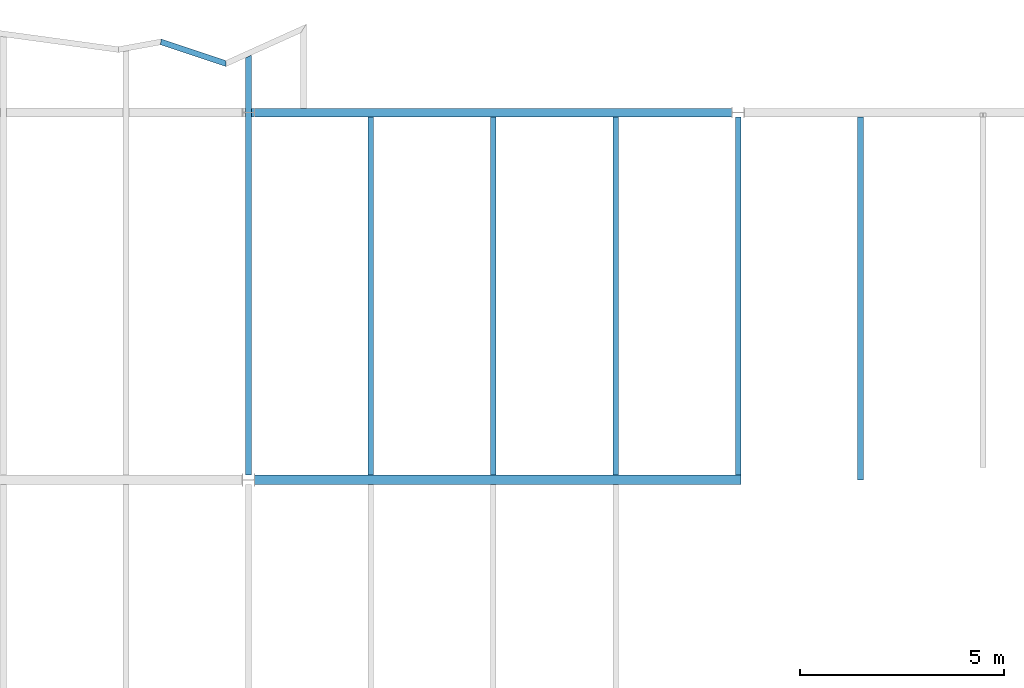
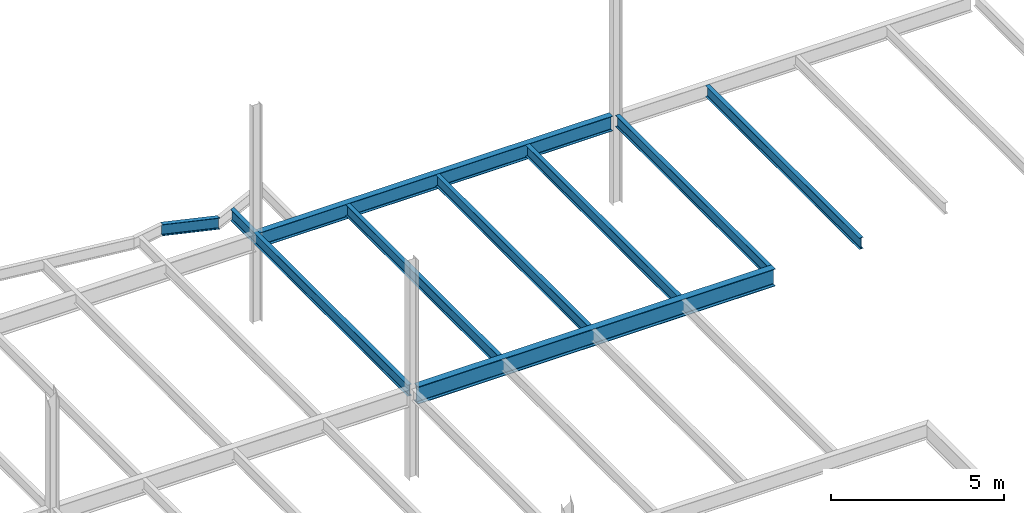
# One storey, part 11 of 23: 9 beams.
"""IFC2X3 building model written with IfcOpenShell, lengths in millimetres."""

from ifc_helpers import new_model, si_unit, origin, place, context, project, spatial, faceted_brep, material, element, save


model = new_model("IFC2X3")

# Units and contexts
context_of_model = context(None, 3, precision=1e-05, world=origin())
ifc_project = project(units=[si_unit("LENGTHUNIT", "METRE", prefix="MILLI")], contexts=[context_of_model])

# Building, storey
building = spatial("IfcBuilding", under=ifc_project, Name="Building", CompositionType="ELEMENT")
storey = spatial("IfcBuildingStorey", under=building, Name="FL5-FRM", CompositionType="ELEMENT")

# Beams
ifc_material_1 = material(Name="A992")
beam_1_placement = place(None, origin())
element("IfcBeam", 1, at=beam_1_placement, inside=storey, material=ifc_material_1, Name="Column407", context=context_of_model, shape_type="Brep", body=[
    faceted_brep([(-11930.0, 35895.5, 17345.0), (-11930.0, 36104.5, 17345.0), (-153.0, 36104.5, 17345.0), (-153.0, 35895.5, 17345.0), (-11930.0, 36104.5, 17358.3), (-153.0, 36104.5, 17358.3), (-11930.0, 36017.4, 17358.3), (-153.0, 36017.4, 17358.3), (-11930.0, 36014.2, 17358.7), (-153.0, 36014.2, 17358.7), (-11930.0, 36011.1, 17360.0), (-153.0, 36011.1, 17360.0), (-11930.0, 36008.5, 17362.0), (-153.0, 36008.5, 17362.0), (-11930.0, 36006.5, 17364.7), (-153.0, 36006.5, 17364.7), (-11930.0, 36005.2, 17367.7), (-153.0, 36005.2, 17367.7), (-11930.0, 36004.8, 17371.0), (-153.0, 36004.8, 17371.0), (-11930.0, 36004.8, 17847.0), (-153.0, 36004.8, 17847.0), (-11930.0, 36005.2, 17850.3), (-153.0, 36005.2, 17850.3), (-11930.0, 36006.5, 17853.3), (-153.0, 36006.5, 17853.3), (-11930.0, 36008.5, 17856.0), (-153.0, 36008.5, 17856.0), (-11930.0, 36011.1, 17858.0), (-153.0, 36011.1, 17858.0), (-11930.0, 36014.2, 17859.3), (-153.0, 36014.2, 17859.3), (-11930.0, 36017.4, 17859.7), (-153.0, 36017.4, 17859.7), (-11930.0, 36104.5, 17859.7), (-153.0, 36104.5, 17859.7), (-11930.0, 36104.5, 17873.0), (-153.0, 36104.5, 17873.0), (-11930.0, 35895.5, 17873.0), (-153.0, 35895.5, 17873.0), (-11930.0, 35895.5, 17859.7), (-153.0, 35895.5, 17859.7), (-11930.0, 35982.6, 17859.7), (-153.0, 35982.6, 17859.7), (-11930.0, 35985.8, 17859.3), (-153.0, 35985.8, 17859.3), (-11930.0, 35988.9, 17858.0), (-153.0, 35988.9, 17858.0), (-11930.0, 35991.5, 17856.0), (-153.0, 35991.5, 17856.0), (-11930.0, 35993.5, 17853.3), (-153.0, 35993.5, 17853.3), (-11930.0, 35994.8, 17850.3), (-153.0, 35994.8, 17850.3), (-11930.0, 35995.3, 17847.0), (-153.0, 35995.3, 17847.0), (-11930.0, 35995.3, 17371.0), (-153.0, 35995.3, 17371.0), (-11930.0, 35994.8, 17367.7), (-153.0, 35994.8, 17367.7), (-11930.0, 35993.5, 17364.7), (-153.0, 35993.5, 17364.7), (-11930.0, 35991.5, 17362.0), (-153.0, 35991.5, 17362.0), (-11930.0, 35988.9, 17360.0), (-153.0, 35988.9, 17360.0), (-11930.0, 35985.8, 17358.7), (-153.0, 35985.8, 17358.7), (-11930.0, 35982.6, 17358.3), (-153.0, 35982.6, 17358.3), (-11930.0, 35895.5, 17358.3), (-153.0, 35895.5, 17358.3)], [[[0, 1, 2, 3]], [[1, 4, 5, 2]], [[4, 6, 7, 5]], [[6, 8, 9, 7]], [[8, 10, 11, 9]], [[10, 12, 13, 11]], [[12, 14, 15, 13]], [[14, 16, 17, 15]], [[16, 18, 19, 17]], [[18, 20, 21, 19]], [[20, 22, 23, 21]], [[22, 24, 25, 23]], [[24, 26, 27, 25]], [[26, 28, 29, 27]], [[28, 30, 31, 29]], [[30, 32, 33, 31]], [[32, 34, 35, 33]], [[34, 36, 37, 35]], [[36, 38, 39, 37]], [[38, 40, 41, 39]], [[40, 42, 43, 41]], [[42, 44, 45, 43]], [[44, 46, 47, 45]], [[46, 48, 49, 47]], [[48, 50, 51, 49]], [[50, 52, 53, 51]], [[52, 54, 55, 53]], [[54, 56, 57, 55]], [[56, 58, 59, 57]], [[58, 60, 61, 59]], [[60, 62, 63, 61]], [[62, 64, 65, 63]], [[64, 66, 67, 65]], [[66, 68, 69, 67]], [[68, 70, 71, 69]], [[70, 0, 3, 71]], [[0, 70, 68, 66, 64, 62, 60, 58, 56, 54, 52, 50, 48, 46, 44, 42, 40, 38, 36, 34, 32, 30, 28, 26, 24, 22, 20, 18, 16, 14, 12, 10, 8, 6, 4, 1]], [[3, 2, 5, 7, 9, 11, 13, 15, 17, 19, 21, 23, 25, 27, 29, 31, 33, 35, 37, 39, 41, 43, 45, 47, 49, 51, 53, 55, 57, 59, 61, 63, 65, 67, 69, 71]]]),
])
ifc_material_2 = material(Name="A992")
beam_2_placement = place(None, origin())
element("IfcBeam", 2, at=beam_2_placement, inside=storey, material=ifc_material_2, Name="B264", context=context_of_model, shape_type="Brep", body=[
    faceted_brep([(-12070.0, 37340.2, 17474.0), (-11930.0, 37403.5, 17474.0), (-11930.0, 27114.5, 17474.0), (-12070.0, 27114.5, 17474.0), (-11930.0, 37403.5, 17482.8), (-11930.0, 27114.5, 17482.8), (-11986.6, 37377.9, 17482.8), (-11986.6, 27114.5, 17482.8), (-11988.0, 37377.2, 17482.9), (-11988.1, 27114.5, 17482.9), (-11989.5, 37376.6, 17483.2), (-11989.5, 27114.5, 17483.2), (-11990.8, 37376.0, 17483.7), (-11990.8, 27114.5, 17483.7), (-11992.1, 37375.4, 17484.4), (-11992.1, 27114.5, 17484.4), (-11993.3, 37374.9, 17485.3), (-11993.3, 27114.5, 17485.3), (-11994.3, 37374.4, 17486.3), (-11994.3, 27114.5, 17486.3), (-11995.2, 37374.0, 17487.5), (-11995.2, 27114.5, 17487.5), (-11995.9, 37373.7, 17488.8), (-11995.9, 27114.5, 17488.8), (-11996.4, 37373.5, 17490.1), (-11996.4, 27114.5, 17490.1), (-11996.7, 37373.3, 17491.5), (-11996.7, 27114.5, 17491.5), (-11996.8, 37373.3, 17493.0), (-11996.8, 27114.5, 17493.0), (-11996.8, 37373.3, 17854.0), (-11996.8, 27114.5, 17854.0), (-11996.7, 37373.3, 17855.5), (-11996.7, 27114.5, 17855.5), (-11996.4, 37373.5, 17856.9), (-11996.4, 27114.5, 17856.9), (-11995.9, 37373.7, 17858.2), (-11995.9, 27114.5, 17858.2), (-11995.2, 37374.0, 17859.5), (-11995.2, 27114.5, 17859.5), (-11994.3, 37374.4, 17860.7), (-11994.3, 27114.5, 17860.7), (-11993.3, 37374.9, 17861.7), (-11993.3, 27114.5, 17861.7), (-11992.1, 37375.4, 17862.6), (-11992.1, 27114.5, 17862.6), (-11990.8, 37376.0, 17863.3), (-11990.8, 27114.5, 17863.3), (-11989.5, 37376.6, 17863.8), (-11989.5, 27114.5, 17863.8), (-11988.0, 37377.2, 17864.1), (-11988.1, 27114.5, 17864.1), (-11986.6, 37377.9, 17864.2), (-11986.6, 27114.5, 17864.2), (-11930.0, 37403.5, 17864.2), (-11930.0, 27114.5, 17864.2), (-11930.0, 37403.5, 17873.0), (-11930.0, 27114.5, 17873.0), (-12070.0, 37340.2, 17873.0), (-12070.0, 27114.5, 17873.0), (-12070.0, 37340.2, 17864.2), (-12070.0, 27114.5, 17864.2), (-12013.4, 37365.8, 17864.2), (-12013.4, 27114.5, 17864.2), (-12012.0, 37366.4, 17864.1), (-12011.9, 27114.5, 17864.1), (-12010.5, 37367.1, 17863.8), (-12010.5, 27114.5, 17863.8), (-12009.2, 37367.7, 17863.3), (-12009.2, 27114.5, 17863.3), (-12007.9, 37368.3, 17862.6), (-12007.9, 27114.5, 17862.6), (-12006.7, 37368.8, 17861.7), (-12006.7, 27114.5, 17861.7), (-12005.7, 37369.3, 17860.7), (-12005.7, 27114.5, 17860.7), (-12004.8, 37369.7, 17859.5), (-12004.8, 27114.5, 17859.5), (-12004.1, 37370.0, 17858.2), (-12004.1, 27114.5, 17858.2), (-12003.6, 37370.2, 17856.9), (-12003.6, 27114.5, 17856.9), (-12003.3, 37370.3, 17855.5), (-12003.3, 27114.5, 17855.5), (-12003.2, 37370.4, 17854.0), (-12003.2, 27114.5, 17854.0), (-12003.2, 37370.4, 17493.0), (-12003.2, 27114.5, 17493.0), (-12003.3, 37370.3, 17491.5), (-12003.3, 27114.5, 17491.5), (-12003.6, 37370.2, 17490.1), (-12003.6, 27114.5, 17490.1), (-12004.1, 37370.0, 17488.8), (-12004.1, 27114.5, 17488.8), (-12004.8, 37369.7, 17487.5), (-12004.8, 27114.5, 17487.5), (-12005.7, 37369.3, 17486.3), (-12005.7, 27114.5, 17486.3), (-12006.7, 37368.8, 17485.3), (-12006.7, 27114.5, 17485.3), (-12007.9, 37368.3, 17484.4), (-12007.9, 27114.5, 17484.4), (-12009.2, 37367.7, 17483.7), (-12009.2, 27114.5, 17483.7), (-12010.5, 37367.1, 17483.2), (-12010.5, 27114.5, 17483.2), (-12012.0, 37366.4, 17482.9), (-12011.9, 27114.5, 17482.9), (-12013.4, 37365.8, 17482.8), (-12013.4, 27114.5, 17482.8), (-12070.0, 37340.2, 17482.8), (-12070.0, 27114.5, 17482.8)], [[[0, 1, 2, 3]], [[1, 4, 5, 2]], [[4, 6, 7, 5]], [[6, 8, 9, 7]], [[8, 10, 11, 9]], [[10, 12, 13, 11]], [[12, 14, 15, 13]], [[14, 16, 17, 15]], [[16, 18, 19, 17]], [[18, 20, 21, 19]], [[20, 22, 23, 21]], [[22, 24, 25, 23]], [[24, 26, 27, 25]], [[26, 28, 29, 27]], [[28, 30, 31, 29]], [[30, 32, 33, 31]], [[32, 34, 35, 33]], [[34, 36, 37, 35]], [[36, 38, 39, 37]], [[38, 40, 41, 39]], [[40, 42, 43, 41]], [[42, 44, 45, 43]], [[44, 46, 47, 45]], [[46, 48, 49, 47]], [[48, 50, 51, 49]], [[50, 52, 53, 51]], [[52, 54, 55, 53]], [[54, 56, 57, 55]], [[56, 58, 59, 57]], [[58, 60, 61, 59]], [[60, 62, 63, 61]], [[62, 64, 65, 63]], [[64, 66, 67, 65]], [[66, 68, 69, 67]], [[68, 70, 71, 69]], [[70, 72, 73, 71]], [[72, 74, 75, 73]], [[74, 76, 77, 75]], [[76, 78, 79, 77]], [[78, 80, 81, 79]], [[80, 82, 83, 81]], [[82, 84, 85, 83]], [[84, 86, 87, 85]], [[86, 88, 89, 87]], [[88, 90, 91, 89]], [[90, 92, 93, 91]], [[92, 94, 95, 93]], [[94, 96, 97, 95]], [[96, 98, 99, 97]], [[98, 100, 101, 99]], [[100, 102, 103, 101]], [[102, 104, 105, 103]], [[104, 106, 107, 105]], [[106, 108, 109, 107]], [[108, 110, 111, 109]], [[110, 0, 3, 111]], [[0, 110, 108, 106, 104, 102, 100, 98, 96, 94, 92, 90, 88, 86, 84, 82, 80, 78, 76, 74, 72, 70, 68, 66, 64, 62, 60, 58, 56, 54, 52, 50, 48, 46, 44, 42, 40, 38, 36, 34, 32, 30, 28, 26, 24, 22, 20, 18, 16, 14, 12, 10, 8, 6, 4, 1]], [[3, 2, 5, 7, 9, 11, 13, 15, 17, 19, 21, 23, 25, 27, 29, 31, 33, 35, 37, 39, 41, 43, 45, 47, 49, 51, 53, 55, 57, 59, 61, 63, 65, 67, 69, 71, 73, 75, 77, 79, 81, 83, 85, 87, 89, 91, 93, 95, 97, 99, 101, 103, 105, 107, 109, 111]]]),
])
ifc_material_3 = material(Name="A992")
beam_3_placement = place(None, origin())
element("IfcBeam", 3, at=beam_3_placement, inside=storey, material=ifc_material_3, Name="Column408", context=context_of_model, shape_type="Brep", body=[
    faceted_brep([(-11846.0, 26885.5, 17261.0), (-11846.0, 27114.5, 17261.0), (70.0, 27114.5, 17261.0), (70.0, 26885.5, 17261.0), (-11846.0, 27114.5, 17280.6), (70.0, 27114.5, 17280.6), (-11846.0, 27018.6, 17280.6), (70.0, 27018.6, 17280.6), (-11846.0, 27015.4, 17281.0), (70.0, 27015.4, 17281.0), (-11846.0, 27012.3, 17282.3), (70.0, 27012.3, 17282.3), (-11846.0, 27009.7, 17284.3), (70.0, 27009.7, 17284.3), (-11846.0, 27007.7, 17287.0), (70.0, 27007.7, 17287.0), (-11846.0, 27006.4, 17290.0), (70.0, 27006.4, 17290.0), (-11846.0, 27005.9, 17293.3), (70.0, 27005.9, 17293.3), (-11846.0, 27005.9, 17840.7), (70.0, 27005.9, 17840.7), (-11846.0, 27006.4, 17844.0), (70.0, 27006.4, 17844.0), (-11846.0, 27007.7, 17847.0), (70.0, 27007.7, 17847.0), (-11846.0, 27009.7, 17849.7), (70.0, 27009.7, 17849.7), (-11846.0, 27012.3, 17851.7), (70.0, 27012.3, 17851.7), (-11846.0, 27015.4, 17853.0), (70.0, 27015.4, 17853.0), (-11846.0, 27018.6, 17853.4), (70.0, 27018.6, 17853.4), (-11846.0, 27114.5, 17853.4), (70.0, 27114.5, 17853.4), (-11846.0, 27114.5, 17873.0), (70.0, 27114.5, 17873.0), (-11846.0, 26885.5, 17873.0), (70.0, 26885.5, 17873.0), (-11846.0, 26885.5, 17853.4), (70.0, 26885.5, 17853.4), (-11846.0, 26981.4, 17853.4), (70.0, 26981.4, 17853.4), (-11846.0, 26984.6, 17853.0), (70.0, 26984.6, 17853.0), (-11846.0, 26987.7, 17851.7), (70.0, 26987.7, 17851.7), (-11846.0, 26990.3, 17849.7), (70.0, 26990.3, 17849.7), (-11846.0, 26992.3, 17847.0), (70.0, 26992.3, 17847.0), (-11846.0, 26993.6, 17844.0), (70.0, 26993.6, 17844.0), (-11846.0, 26994.1, 17840.7), (70.0, 26994.1, 17840.7), (-11846.0, 26994.1, 17293.3), (70.0, 26994.1, 17293.3), (-11846.0, 26993.6, 17290.0), (70.0, 26993.6, 17290.0), (-11846.0, 26992.3, 17287.0), (70.0, 26992.3, 17287.0), (-11846.0, 26990.3, 17284.3), (70.0, 26990.3, 17284.3), (-11846.0, 26987.7, 17282.3), (70.0, 26987.7, 17282.3), (-11846.0, 26984.6, 17281.0), (70.0, 26984.6, 17281.0), (-11846.0, 26981.4, 17280.6), (70.0, 26981.4, 17280.6), (-11846.0, 26885.5, 17280.6), (70.0, 26885.5, 17280.6)], [[[0, 1, 2, 3]], [[1, 4, 5, 2]], [[4, 6, 7, 5]], [[6, 8, 9, 7]], [[8, 10, 11, 9]], [[10, 12, 13, 11]], [[12, 14, 15, 13]], [[14, 16, 17, 15]], [[16, 18, 19, 17]], [[18, 20, 21, 19]], [[20, 22, 23, 21]], [[22, 24, 25, 23]], [[24, 26, 27, 25]], [[26, 28, 29, 27]], [[28, 30, 31, 29]], [[30, 32, 33, 31]], [[32, 34, 35, 33]], [[34, 36, 37, 35]], [[36, 38, 39, 37]], [[38, 40, 41, 39]], [[40, 42, 43, 41]], [[42, 44, 45, 43]], [[44, 46, 47, 45]], [[46, 48, 49, 47]], [[48, 50, 51, 49]], [[50, 52, 53, 51]], [[52, 54, 55, 53]], [[54, 56, 57, 55]], [[56, 58, 59, 57]], [[58, 60, 61, 59]], [[60, 62, 63, 61]], [[62, 64, 65, 63]], [[64, 66, 67, 65]], [[66, 68, 69, 67]], [[68, 70, 71, 69]], [[70, 0, 3, 71]], [[0, 70, 68, 66, 64, 62, 60, 58, 56, 54, 52, 50, 48, 46, 44, 42, 40, 38, 36, 34, 32, 30, 28, 26, 24, 22, 20, 18, 16, 14, 12, 10, 8, 6, 4, 1]], [[3, 2, 5, 7, 9, 11, 13, 15, 17, 19, 21, 23, 25, 27, 29, 31, 33, 35, 37, 39, 41, 43, 45, 47, 49, 51, 53, 55, 57, 59, 61, 63, 65, 67, 69, 71]]]),
])
ifc_material_4 = material(Name="A992")
beam_4_placement = place(None, origin())
element("IfcBeam", 4, at=beam_4_placement, inside=storey, material=ifc_material_4, Name="B265", context=context_of_model, shape_type="Brep", body=[
    faceted_brep([(-9070.0, 35895.5, 17474.0), (-8930.0, 35895.5, 17474.0), (-8930.0, 27114.5, 17474.0), (-9070.0, 27114.5, 17474.0), (-8930.0, 35895.5, 17482.8), (-8930.0, 27114.5, 17482.8), (-8986.6, 35895.5, 17482.8), (-8986.6, 27114.5, 17482.8), (-8989.24, 35895.5, 17483.1), (-8989.24, 27114.5, 17483.1), (-8991.7, 35895.5, 17484.2), (-8991.7, 27114.5, 17484.2), (-8993.81, 35895.5, 17485.8), (-8993.81, 27114.5, 17485.8), (-8995.43, 35895.5, 17487.9), (-8995.43, 27114.5, 17487.9), (-8996.45, 35895.5, 17490.4), (-8996.45, 27114.5, 17490.4), (-8996.8, 35895.5, 17493.0), (-8996.8, 27114.5, 17493.0), (-8996.8, 35895.5, 17854.0), (-8996.8, 27114.5, 17854.0), (-8996.45, 35895.5, 17856.6), (-8996.45, 27114.5, 17856.6), (-8995.43, 35895.5, 17859.1), (-8995.43, 27114.5, 17859.1), (-8993.81, 35895.5, 17861.2), (-8993.81, 27114.5, 17861.2), (-8991.7, 35895.5, 17862.8), (-8991.7, 27114.5, 17862.8), (-8989.24, 35895.5, 17863.9), (-8989.24, 27114.5, 17863.9), (-8986.6, 35895.5, 17864.2), (-8986.6, 27114.5, 17864.2), (-8930.0, 35895.5, 17864.2), (-8930.0, 27114.5, 17864.2), (-8930.0, 35895.5, 17873.0), (-8930.0, 27114.5, 17873.0), (-9070.0, 35895.5, 17873.0), (-9070.0, 27114.5, 17873.0), (-9070.0, 35895.5, 17864.2), (-9070.0, 27114.5, 17864.2), (-9013.4, 35895.5, 17864.2), (-9013.4, 27114.5, 17864.2), (-9010.76, 35895.5, 17863.9), (-9010.76, 27114.5, 17863.9), (-9008.3, 35895.5, 17862.8), (-9008.3, 27114.5, 17862.8), (-9006.19, 35895.5, 17861.2), (-9006.19, 27114.5, 17861.2), (-9004.57, 35895.5, 17859.1), (-9004.57, 27114.5, 17859.1), (-9003.55, 35895.5, 17856.6), (-9003.55, 27114.5, 17856.6), (-9003.2, 35895.5, 17854.0), (-9003.2, 27114.5, 17854.0), (-9003.2, 35895.5, 17493.0), (-9003.2, 27114.5, 17493.0), (-9003.55, 35895.5, 17490.4), (-9003.55, 27114.5, 17490.4), (-9004.57, 35895.5, 17487.9), (-9004.57, 27114.5, 17487.9), (-9006.19, 35895.5, 17485.8), (-9006.19, 27114.5, 17485.8), (-9008.3, 35895.5, 17484.2), (-9008.3, 27114.5, 17484.2), (-9010.76, 35895.5, 17483.1), (-9010.76, 27114.5, 17483.1), (-9013.4, 35895.5, 17482.8), (-9013.4, 27114.5, 17482.8), (-9070.0, 35895.5, 17482.8), (-9070.0, 27114.5, 17482.8)], [[[0, 1, 2, 3]], [[1, 4, 5, 2]], [[4, 6, 7, 5]], [[6, 8, 9, 7]], [[8, 10, 11, 9]], [[10, 12, 13, 11]], [[12, 14, 15, 13]], [[14, 16, 17, 15]], [[16, 18, 19, 17]], [[18, 20, 21, 19]], [[20, 22, 23, 21]], [[22, 24, 25, 23]], [[24, 26, 27, 25]], [[26, 28, 29, 27]], [[28, 30, 31, 29]], [[30, 32, 33, 31]], [[32, 34, 35, 33]], [[34, 36, 37, 35]], [[36, 38, 39, 37]], [[38, 40, 41, 39]], [[40, 42, 43, 41]], [[42, 44, 45, 43]], [[44, 46, 47, 45]], [[46, 48, 49, 47]], [[48, 50, 51, 49]], [[50, 52, 53, 51]], [[52, 54, 55, 53]], [[54, 56, 57, 55]], [[56, 58, 59, 57]], [[58, 60, 61, 59]], [[60, 62, 63, 61]], [[62, 64, 65, 63]], [[64, 66, 67, 65]], [[66, 68, 69, 67]], [[68, 70, 71, 69]], [[70, 0, 3, 71]], [[0, 70, 68, 66, 64, 62, 60, 58, 56, 54, 52, 50, 48, 46, 44, 42, 40, 38, 36, 34, 32, 30, 28, 26, 24, 22, 20, 18, 16, 14, 12, 10, 8, 6, 4, 1]], [[3, 2, 5, 7, 9, 11, 13, 15, 17, 19, 21, 23, 25, 27, 29, 31, 33, 35, 37, 39, 41, 43, 45, 47, 49, 51, 53, 55, 57, 59, 61, 63, 65, 67, 69, 71]]]),
])
ifc_material_5 = material(Name="A992")
beam_5_placement = place(None, origin())
element("IfcBeam", 5, at=beam_5_placement, inside=storey, material=ifc_material_5, Name="B266", context=context_of_model, shape_type="Brep", body=[
    faceted_brep([(-6070.0, 35895.5, 17474.0), (-5930.0, 35895.5, 17474.0), (-5930.0, 27114.5, 17474.0), (-6070.0, 27114.5, 17474.0), (-5930.0, 35895.5, 17482.8), (-5930.0, 27114.5, 17482.8), (-5986.6, 35895.5, 17482.8), (-5986.6, 27114.5, 17482.8), (-5989.24, 35895.5, 17483.1), (-5989.24, 27114.5, 17483.1), (-5991.7, 35895.5, 17484.2), (-5991.7, 27114.5, 17484.2), (-5993.81, 35895.5, 17485.8), (-5993.81, 27114.5, 17485.8), (-5995.43, 35895.5, 17487.9), (-5995.43, 27114.5, 17487.9), (-5996.45, 35895.5, 17490.4), (-5996.45, 27114.5, 17490.4), (-5996.8, 35895.5, 17493.0), (-5996.8, 27114.5, 17493.0), (-5996.8, 35895.5, 17854.0), (-5996.8, 27114.5, 17854.0), (-5996.45, 35895.5, 17856.6), (-5996.45, 27114.5, 17856.6), (-5995.43, 35895.5, 17859.1), (-5995.43, 27114.5, 17859.1), (-5993.81, 35895.5, 17861.2), (-5993.81, 27114.5, 17861.2), (-5991.7, 35895.5, 17862.8), (-5991.7, 27114.5, 17862.8), (-5989.24, 35895.5, 17863.9), (-5989.24, 27114.5, 17863.9), (-5986.6, 35895.5, 17864.2), (-5986.6, 27114.5, 17864.2), (-5930.0, 35895.5, 17864.2), (-5930.0, 27114.5, 17864.2), (-5930.0, 35895.5, 17873.0), (-5930.0, 27114.5, 17873.0), (-6070.0, 35895.5, 17873.0), (-6070.0, 27114.5, 17873.0), (-6070.0, 35895.5, 17864.2), (-6070.0, 27114.5, 17864.2), (-6013.4, 35895.5, 17864.2), (-6013.4, 27114.5, 17864.2), (-6010.76, 35895.5, 17863.9), (-6010.76, 27114.5, 17863.9), (-6008.3, 35895.5, 17862.8), (-6008.3, 27114.5, 17862.8), (-6006.19, 35895.5, 17861.2), (-6006.19, 27114.5, 17861.2), (-6004.57, 35895.5, 17859.1), (-6004.57, 27114.5, 17859.1), (-6003.55, 35895.5, 17856.6), (-6003.55, 27114.5, 17856.6), (-6003.2, 35895.5, 17854.0), (-6003.2, 27114.5, 17854.0), (-6003.2, 35895.5, 17493.0), (-6003.2, 27114.5, 17493.0), (-6003.55, 35895.5, 17490.4), (-6003.55, 27114.5, 17490.4), (-6004.57, 35895.5, 17487.9), (-6004.57, 27114.5, 17487.9), (-6006.19, 35895.5, 17485.8), (-6006.19, 27114.5, 17485.8), (-6008.3, 35895.5, 17484.2), (-6008.3, 27114.5, 17484.2), (-6010.76, 35895.5, 17483.1), (-6010.76, 27114.5, 17483.1), (-6013.4, 35895.5, 17482.8), (-6013.4, 27114.5, 17482.8), (-6070.0, 35895.5, 17482.8), (-6070.0, 27114.5, 17482.8)], [[[0, 1, 2, 3]], [[1, 4, 5, 2]], [[4, 6, 7, 5]], [[6, 8, 9, 7]], [[8, 10, 11, 9]], [[10, 12, 13, 11]], [[12, 14, 15, 13]], [[14, 16, 17, 15]], [[16, 18, 19, 17]], [[18, 20, 21, 19]], [[20, 22, 23, 21]], [[22, 24, 25, 23]], [[24, 26, 27, 25]], [[26, 28, 29, 27]], [[28, 30, 31, 29]], [[30, 32, 33, 31]], [[32, 34, 35, 33]], [[34, 36, 37, 35]], [[36, 38, 39, 37]], [[38, 40, 41, 39]], [[40, 42, 43, 41]], [[42, 44, 45, 43]], [[44, 46, 47, 45]], [[46, 48, 49, 47]], [[48, 50, 51, 49]], [[50, 52, 53, 51]], [[52, 54, 55, 53]], [[54, 56, 57, 55]], [[56, 58, 59, 57]], [[58, 60, 61, 59]], [[60, 62, 63, 61]], [[62, 64, 65, 63]], [[64, 66, 67, 65]], [[66, 68, 69, 67]], [[68, 70, 71, 69]], [[70, 0, 3, 71]], [[0, 70, 68, 66, 64, 62, 60, 58, 56, 54, 52, 50, 48, 46, 44, 42, 40, 38, 36, 34, 32, 30, 28, 26, 24, 22, 20, 18, 16, 14, 12, 10, 8, 6, 4, 1]], [[3, 2, 5, 7, 9, 11, 13, 15, 17, 19, 21, 23, 25, 27, 29, 31, 33, 35, 37, 39, 41, 43, 45, 47, 49, 51, 53, 55, 57, 59, 61, 63, 65, 67, 69, 71]]]),
])
ifc_material_6 = material(Name="A992")
beam_6_placement = place(None, origin())
element("IfcBeam", 6, at=beam_6_placement, inside=storey, material=ifc_material_6, Name="B267", context=context_of_model, shape_type="Brep", body=[
    faceted_brep([(-3070.0, 35895.5, 17474.0), (-2930.0, 35895.5, 17474.0), (-2930.0, 27114.5, 17474.0), (-3070.0, 27114.5, 17474.0), (-2930.0, 35895.5, 17482.8), (-2930.0, 27114.5, 17482.8), (-2986.6, 35895.5, 17482.8), (-2986.6, 27114.5, 17482.8), (-2989.24, 35895.5, 17483.1), (-2989.24, 27114.5, 17483.1), (-2991.7, 35895.5, 17484.2), (-2991.7, 27114.5, 17484.2), (-2993.81, 35895.5, 17485.8), (-2993.81, 27114.5, 17485.8), (-2995.43, 35895.5, 17487.9), (-2995.43, 27114.5, 17487.9), (-2996.45, 35895.5, 17490.4), (-2996.45, 27114.5, 17490.4), (-2996.8, 35895.5, 17493.0), (-2996.8, 27114.5, 17493.0), (-2996.8, 35895.5, 17854.0), (-2996.8, 27114.5, 17854.0), (-2996.45, 35895.5, 17856.6), (-2996.45, 27114.5, 17856.6), (-2995.43, 35895.5, 17859.1), (-2995.43, 27114.5, 17859.1), (-2993.81, 35895.5, 17861.2), (-2993.81, 27114.5, 17861.2), (-2991.7, 35895.5, 17862.8), (-2991.7, 27114.5, 17862.8), (-2989.24, 35895.5, 17863.9), (-2989.24, 27114.5, 17863.9), (-2986.6, 35895.5, 17864.2), (-2986.6, 27114.5, 17864.2), (-2930.0, 35895.5, 17864.2), (-2930.0, 27114.5, 17864.2), (-2930.0, 35895.5, 17873.0), (-2930.0, 27114.5, 17873.0), (-3070.0, 35895.5, 17873.0), (-3070.0, 27114.5, 17873.0), (-3070.0, 35895.5, 17864.2), (-3070.0, 27114.5, 17864.2), (-3013.4, 35895.5, 17864.2), (-3013.4, 27114.5, 17864.2), (-3010.76, 35895.5, 17863.9), (-3010.76, 27114.5, 17863.9), (-3008.3, 35895.5, 17862.8), (-3008.3, 27114.5, 17862.8), (-3006.19, 35895.5, 17861.2), (-3006.19, 27114.5, 17861.2), (-3004.57, 35895.5, 17859.1), (-3004.57, 27114.5, 17859.1), (-3003.55, 35895.5, 17856.6), (-3003.55, 27114.5, 17856.6), (-3003.2, 35895.5, 17854.0), (-3003.2, 27114.5, 17854.0), (-3003.2, 35895.5, 17493.0), (-3003.2, 27114.5, 17493.0), (-3003.55, 35895.5, 17490.4), (-3003.55, 27114.5, 17490.4), (-3004.57, 35895.5, 17487.9), (-3004.57, 27114.5, 17487.9), (-3006.19, 35895.5, 17485.8), (-3006.19, 27114.5, 17485.8), (-3008.3, 35895.5, 17484.2), (-3008.3, 27114.5, 17484.2), (-3010.76, 35895.5, 17483.1), (-3010.76, 27114.5, 17483.1), (-3013.4, 35895.5, 17482.8), (-3013.4, 27114.5, 17482.8), (-3070.0, 35895.5, 17482.8), (-3070.0, 27114.5, 17482.8)], [[[0, 1, 2, 3]], [[1, 4, 5, 2]], [[4, 6, 7, 5]], [[6, 8, 9, 7]], [[8, 10, 11, 9]], [[10, 12, 13, 11]], [[12, 14, 15, 13]], [[14, 16, 17, 15]], [[16, 18, 19, 17]], [[18, 20, 21, 19]], [[20, 22, 23, 21]], [[22, 24, 25, 23]], [[24, 26, 27, 25]], [[26, 28, 29, 27]], [[28, 30, 31, 29]], [[30, 32, 33, 31]], [[32, 34, 35, 33]], [[34, 36, 37, 35]], [[36, 38, 39, 37]], [[38, 40, 41, 39]], [[40, 42, 43, 41]], [[42, 44, 45, 43]], [[44, 46, 47, 45]], [[46, 48, 49, 47]], [[48, 50, 51, 49]], [[50, 52, 53, 51]], [[52, 54, 55, 53]], [[54, 56, 57, 55]], [[56, 58, 59, 57]], [[58, 60, 61, 59]], [[60, 62, 63, 61]], [[62, 64, 65, 63]], [[64, 66, 67, 65]], [[66, 68, 69, 67]], [[68, 70, 71, 69]], [[70, 0, 3, 71]], [[0, 70, 68, 66, 64, 62, 60, 58, 56, 54, 52, 50, 48, 46, 44, 42, 40, 38, 36, 34, 32, 30, 28, 26, 24, 22, 20, 18, 16, 14, 12, 10, 8, 6, 4, 1]], [[3, 2, 5, 7, 9, 11, 13, 15, 17, 19, 21, 23, 25, 27, 29, 31, 33, 35, 37, 39, 41, 43, 45, 47, 49, 51, 53, 55, 57, 59, 61, 63, 65, 67, 69, 71]]]),
])
ifc_material_7 = material(Name="A992")
beam_7_placement = place(None, origin())
element("IfcBeam", 7, at=beam_7_placement, inside=storey, material=ifc_material_7, Name="B268", context=context_of_model, shape_type="Brep", body=[
    faceted_brep([(-70.0, 35895.5, 17474.0), (70.0, 35895.5, 17474.0), (70.0, 27114.5, 17474.0), (-70.0, 27114.5, 17474.0), (70.0, 35895.5, 17482.8), (70.0, 27114.5, 17482.8), (13.4, 35895.5, 17482.8), (13.4, 27114.5, 17482.8), (10.76, 35895.5, 17483.1), (10.76, 27114.5, 17483.1), (8.3, 35895.5, 17484.2), (8.3, 27114.5, 17484.2), (6.18751, 35895.5, 17485.8), (6.18751, 27114.5, 17485.8), (4.56654, 35895.5, 17487.9), (4.56654, 27114.5, 17487.9), (3.54756, 35895.5, 17490.4), (3.54756, 27114.5, 17490.4), (3.2, 35895.5, 17493.0), (3.2, 27114.5, 17493.0), (3.2, 35895.5, 17854.0), (3.2, 27114.5, 17854.0), (3.54756, 35895.5, 17856.6), (3.54756, 27114.5, 17856.6), (4.56654, 35895.5, 17859.1), (4.56654, 27114.5, 17859.1), (6.18751, 35895.5, 17861.2), (6.18751, 27114.5, 17861.2), (8.3, 35895.5, 17862.8), (8.3, 27114.5, 17862.8), (10.76, 35895.5, 17863.9), (10.76, 27114.5, 17863.9), (13.4, 35895.5, 17864.2), (13.4, 27114.5, 17864.2), (70.0, 35895.5, 17864.2), (70.0, 27114.5, 17864.2), (70.0, 35895.5, 17873.0), (70.0, 27114.5, 17873.0), (-70.0, 35895.5, 17873.0), (-70.0, 27114.5, 17873.0), (-70.0, 35895.5, 17864.2), (-70.0, 27114.5, 17864.2), (-13.4, 35895.5, 17864.2), (-13.4, 27114.5, 17864.2), (-10.76, 35895.5, 17863.9), (-10.76, 27114.5, 17863.9), (-8.3, 35895.5, 17862.8), (-8.3, 27114.5, 17862.8), (-6.18751, 35895.5, 17861.2), (-6.18751, 27114.5, 17861.2), (-4.56654, 35895.5, 17859.1), (-4.56654, 27114.5, 17859.1), (-3.54756, 35895.5, 17856.6), (-3.54756, 27114.5, 17856.6), (-3.2, 35895.5, 17854.0), (-3.2, 27114.5, 17854.0), (-3.2, 35895.5, 17493.0), (-3.2, 27114.5, 17493.0), (-3.54756, 35895.5, 17490.4), (-3.54756, 27114.5, 17490.4), (-4.56654, 35895.5, 17487.9), (-4.56654, 27114.5, 17487.9), (-6.18751, 35895.5, 17485.8), (-6.18751, 27114.5, 17485.8), (-8.3, 35895.5, 17484.2), (-8.3, 27114.5, 17484.2), (-10.76, 35895.5, 17483.1), (-10.76, 27114.5, 17483.1), (-13.4, 35895.5, 17482.8), (-13.4, 27114.5, 17482.8), (-70.0, 35895.5, 17482.8), (-70.0, 27114.5, 17482.8)], [[[0, 1, 2, 3]], [[1, 4, 5, 2]], [[4, 6, 7, 5]], [[6, 8, 9, 7]], [[8, 10, 11, 9]], [[10, 12, 13, 11]], [[12, 14, 15, 13]], [[14, 16, 17, 15]], [[16, 18, 19, 17]], [[18, 20, 21, 19]], [[20, 22, 23, 21]], [[22, 24, 25, 23]], [[24, 26, 27, 25]], [[26, 28, 29, 27]], [[28, 30, 31, 29]], [[30, 32, 33, 31]], [[32, 34, 35, 33]], [[34, 36, 37, 35]], [[36, 38, 39, 37]], [[38, 40, 41, 39]], [[40, 42, 43, 41]], [[42, 44, 45, 43]], [[44, 46, 47, 45]], [[46, 48, 49, 47]], [[48, 50, 51, 49]], [[50, 52, 53, 51]], [[52, 54, 55, 53]], [[54, 56, 57, 55]], [[56, 58, 59, 57]], [[58, 60, 61, 59]], [[60, 62, 63, 61]], [[62, 64, 65, 63]], [[64, 66, 67, 65]], [[66, 68, 69, 67]], [[68, 70, 71, 69]], [[70, 0, 3, 71]], [[0, 70, 68, 66, 64, 62, 60, 58, 56, 54, 52, 50, 48, 46, 44, 42, 40, 38, 36, 34, 32, 30, 28, 26, 24, 22, 20, 18, 16, 14, 12, 10, 8, 6, 4, 1]], [[3, 2, 5, 7, 9, 11, 13, 15, 17, 19, 21, 23, 25, 27, 29, 31, 33, 35, 37, 39, 41, 43, 45, 47, 49, 51, 53, 55, 57, 59, 61, 63, 65, 67, 69, 71]]]),
])
ifc_material_8 = material(Name="A992")
beam_8_placement = place(None, origin())
element("IfcBeam", 8, at=beam_8_placement, inside=storey, material=ifc_material_8, Name="B276", context=context_of_model, shape_type="Brep", body=[
    faceted_brep([(2930.0, 35895.5, 17474.0), (3070.0, 35895.5, 17474.0), (3070.0, 27000.0, 17474.0), (2930.0, 27000.0, 17474.0), (3070.0, 35895.5, 17482.8), (3070.0, 27000.0, 17482.8), (3013.4, 35895.5, 17482.8), (3013.4, 27000.0, 17482.8), (3010.76, 35895.5, 17483.1), (3010.76, 27000.0, 17483.1), (3008.3, 35895.5, 17484.2), (3008.3, 27000.0, 17484.2), (3006.19, 35895.5, 17485.8), (3006.19, 27000.0, 17485.8), (3004.57, 35895.5, 17487.9), (3004.57, 27000.0, 17487.9), (3003.55, 35895.5, 17490.4), (3003.55, 27000.0, 17490.4), (3003.2, 35895.5, 17493.0), (3003.2, 27000.0, 17493.0), (3003.2, 35895.5, 17854.0), (3003.2, 27000.0, 17854.0), (3003.55, 35895.5, 17856.6), (3003.55, 27000.0, 17856.6), (3004.57, 35895.5, 17859.1), (3004.57, 27000.0, 17859.1), (3006.19, 35895.5, 17861.2), (3006.19, 27000.0, 17861.2), (3008.3, 35895.5, 17862.8), (3008.3, 27000.0, 17862.8), (3010.76, 35895.5, 17863.9), (3010.76, 27000.0, 17863.9), (3013.4, 35895.5, 17864.2), (3013.4, 27000.0, 17864.2), (3070.0, 35895.5, 17864.2), (3070.0, 27000.0, 17864.2), (3070.0, 35895.5, 17873.0), (3070.0, 27000.0, 17873.0), (2930.0, 35895.5, 17873.0), (2930.0, 27000.0, 17873.0), (2930.0, 35895.5, 17864.2), (2930.0, 27000.0, 17864.2), (2986.6, 35895.5, 17864.2), (2986.6, 27000.0, 17864.2), (2989.24, 35895.5, 17863.9), (2989.24, 27000.0, 17863.9), (2991.7, 35895.5, 17862.8), (2991.7, 27000.0, 17862.8), (2993.81, 35895.5, 17861.2), (2993.81, 27000.0, 17861.2), (2995.43, 35895.5, 17859.1), (2995.43, 27000.0, 17859.1), (2996.45, 35895.5, 17856.6), (2996.45, 27000.0, 17856.6), (2996.8, 35895.5, 17854.0), (2996.8, 27000.0, 17854.0), (2996.8, 35895.5, 17493.0), (2996.8, 27000.0, 17493.0), (2996.45, 35895.5, 17490.4), (2996.45, 27000.0, 17490.4), (2995.43, 35895.5, 17487.9), (2995.43, 27000.0, 17487.9), (2993.81, 35895.5, 17485.8), (2993.81, 27000.0, 17485.8), (2991.7, 35895.5, 17484.2), (2991.7, 27000.0, 17484.2), (2989.24, 35895.5, 17483.1), (2989.24, 27000.0, 17483.1), (2986.6, 35895.5, 17482.8), (2986.6, 27000.0, 17482.8), (2930.0, 35895.5, 17482.8), (2930.0, 27000.0, 17482.8)], [[[0, 1, 2, 3]], [[1, 4, 5, 2]], [[4, 6, 7, 5]], [[6, 8, 9, 7]], [[8, 10, 11, 9]], [[10, 12, 13, 11]], [[12, 14, 15, 13]], [[14, 16, 17, 15]], [[16, 18, 19, 17]], [[18, 20, 21, 19]], [[20, 22, 23, 21]], [[22, 24, 25, 23]], [[24, 26, 27, 25]], [[26, 28, 29, 27]], [[28, 30, 31, 29]], [[30, 32, 33, 31]], [[32, 34, 35, 33]], [[34, 36, 37, 35]], [[36, 38, 39, 37]], [[38, 40, 41, 39]], [[40, 42, 43, 41]], [[42, 44, 45, 43]], [[44, 46, 47, 45]], [[46, 48, 49, 47]], [[48, 50, 51, 49]], [[50, 52, 53, 51]], [[52, 54, 55, 53]], [[54, 56, 57, 55]], [[56, 58, 59, 57]], [[58, 60, 61, 59]], [[60, 62, 63, 61]], [[62, 64, 65, 63]], [[64, 66, 67, 65]], [[66, 68, 69, 67]], [[68, 70, 71, 69]], [[70, 0, 3, 71]], [[0, 70, 68, 66, 64, 62, 60, 58, 56, 54, 52, 50, 48, 46, 44, 42, 40, 38, 36, 34, 32, 30, 28, 26, 24, 22, 20, 18, 16, 14, 12, 10, 8, 6, 4, 1]], [[3, 2, 5, 7, 9, 11, 13, 15, 17, 19, 21, 23, 25, 27, 29, 31, 33, 35, 37, 39, 41, 43, 45, 47, 49, 51, 53, 55, 57, 59, 61, 63, 65, 67, 69, 71]]]),
])
ifc_material_9 = material(Name="A992")
beam_9_placement = place(None, origin())
element("IfcBeam", 9, at=beam_9_placement, inside=storey, material=ifc_material_9, Name="B976", context=context_of_model, shape_type="Brep", body=[
    faceted_brep([(-14152.7, 37658.6, 17474.0), (-14142.4, 37802.8, 17474.0), (-12556.6, 37274.1, 17474.0), (-12548.9, 37124.0, 17474.0), (-14142.4, 37802.8, 17482.8), (-12556.6, 37274.1, 17482.8), (-14146.6, 37744.5, 17482.8), (-12553.5, 37213.4, 17482.8), (-14146.7, 37743.0, 17482.9), (-12553.4, 37211.9, 17482.9), (-14146.8, 37741.5, 17483.2), (-12553.3, 37210.4, 17483.2), (-14146.9, 37740.1, 17483.7), (-12553.2, 37208.9, 17483.7), (-14147.0, 37738.8, 17484.4), (-12553.1, 37207.5, 17484.4), (-14147.1, 37737.6, 17485.3), (-12553.1, 37206.3, 17485.3), (-14147.1, 37736.6, 17486.3), (-12553.0, 37205.2, 17486.3), (-14147.2, 37735.7, 17487.5), (-12553.0, 37204.3, 17487.5), (-14147.3, 37734.9, 17488.8), (-12552.9, 37203.5, 17488.8), (-14147.3, 37734.4, 17490.1), (-12552.9, 37203.0, 17490.1), (-14147.3, 37734.1, 17491.5), (-12552.9, 37202.6, 17491.5), (-14147.3, 37734.0, 17493.0), (-12552.9, 37202.5, 17493.0), (-14147.3, 37734.0, 17854.0), (-12552.9, 37202.5, 17854.0), (-14147.3, 37734.1, 17855.5), (-12552.9, 37202.6, 17855.5), (-14147.3, 37734.4, 17856.9), (-12552.9, 37203.0, 17856.9), (-14147.3, 37734.9, 17858.2), (-12552.9, 37203.5, 17858.2), (-14147.2, 37735.7, 17859.5), (-12553.0, 37204.3, 17859.5), (-14147.1, 37736.6, 17860.7), (-12553.0, 37205.2, 17860.7), (-14147.1, 37737.6, 17861.7), (-12553.1, 37206.3, 17861.7), (-14147.0, 37738.8, 17862.6), (-12553.1, 37207.5, 17862.6), (-14146.9, 37740.1, 17863.3), (-12553.2, 37208.9, 17863.3), (-14146.8, 37741.5, 17863.8), (-12553.3, 37210.4, 17863.8), (-14146.7, 37743.0, 17864.1), (-12553.4, 37211.9, 17864.1), (-14146.6, 37744.5, 17864.2), (-12553.5, 37213.4, 17864.2), (-14142.4, 37802.8, 17864.2), (-12556.6, 37274.1, 17864.2), (-14142.4, 37802.8, 17873.0), (-12556.6, 37274.1, 17873.0), (-14152.7, 37658.6, 17873.0), (-12548.9, 37124.0, 17873.0), (-14152.7, 37658.6, 17864.2), (-12548.9, 37124.0, 17864.2), (-14148.5, 37716.9, 17864.2), (-12552.0, 37184.7, 17864.2), (-14148.4, 37718.4, 17864.1), (-12552.1, 37186.3, 17864.1), (-14148.3, 37719.9, 17863.8), (-12552.1, 37187.8, 17863.8), (-14148.2, 37721.3, 17863.3), (-12552.2, 37189.2, 17863.3), (-14148.1, 37722.6, 17862.6), (-12552.3, 37190.6, 17862.6), (-14148.1, 37723.8, 17861.7), (-12552.3, 37191.9, 17861.7), (-14148.0, 37724.8, 17860.7), (-12552.4, 37193.0, 17860.7), (-14147.9, 37725.7, 17859.5), (-12552.4, 37193.9, 17859.5), (-14147.9, 37726.5, 17858.2), (-12552.5, 37194.7, 17858.2), (-14147.8, 37727.0, 17856.9), (-12552.5, 37195.2, 17856.9), (-14147.8, 37727.3, 17855.5), (-12552.5, 37195.5, 17855.5), (-14147.8, 37727.4, 17854.0), (-12552.5, 37195.6, 17854.0), (-14147.8, 37727.4, 17493.0), (-12552.5, 37195.6, 17493.0), (-14147.8, 37727.3, 17491.5), (-12552.5, 37195.5, 17491.5), (-14147.8, 37727.0, 17490.1), (-12552.5, 37195.2, 17490.1), (-14147.9, 37726.5, 17488.8), (-12552.5, 37194.7, 17488.8), (-14147.9, 37725.7, 17487.5), (-12552.4, 37193.9, 17487.5), (-14148.0, 37724.8, 17486.3), (-12552.4, 37193.0, 17486.3), (-14148.1, 37723.8, 17485.3), (-12552.3, 37191.9, 17485.3), (-14148.1, 37722.6, 17484.4), (-12552.3, 37190.6, 17484.4), (-14148.2, 37721.3, 17483.7), (-12552.2, 37189.2, 17483.7), (-14148.3, 37719.9, 17483.2), (-12552.1, 37187.8, 17483.2), (-14148.4, 37718.4, 17482.9), (-12552.1, 37186.3, 17482.9), (-14148.5, 37716.9, 17482.8), (-12552.0, 37184.7, 17482.8), (-14152.7, 37658.6, 17482.8), (-12548.9, 37124.0, 17482.8)], [[[0, 1, 2, 3]], [[1, 4, 5, 2]], [[4, 6, 7, 5]], [[6, 8, 9, 7]], [[8, 10, 11, 9]], [[10, 12, 13, 11]], [[12, 14, 15, 13]], [[14, 16, 17, 15]], [[16, 18, 19, 17]], [[18, 20, 21, 19]], [[20, 22, 23, 21]], [[22, 24, 25, 23]], [[24, 26, 27, 25]], [[26, 28, 29, 27]], [[28, 30, 31, 29]], [[30, 32, 33, 31]], [[32, 34, 35, 33]], [[34, 36, 37, 35]], [[36, 38, 39, 37]], [[38, 40, 41, 39]], [[40, 42, 43, 41]], [[42, 44, 45, 43]], [[44, 46, 47, 45]], [[46, 48, 49, 47]], [[48, 50, 51, 49]], [[50, 52, 53, 51]], [[52, 54, 55, 53]], [[54, 56, 57, 55]], [[56, 58, 59, 57]], [[58, 60, 61, 59]], [[60, 62, 63, 61]], [[62, 64, 65, 63]], [[64, 66, 67, 65]], [[66, 68, 69, 67]], [[68, 70, 71, 69]], [[70, 72, 73, 71]], [[72, 74, 75, 73]], [[74, 76, 77, 75]], [[76, 78, 79, 77]], [[78, 80, 81, 79]], [[80, 82, 83, 81]], [[82, 84, 85, 83]], [[84, 86, 87, 85]], [[86, 88, 89, 87]], [[88, 90, 91, 89]], [[90, 92, 93, 91]], [[92, 94, 95, 93]], [[94, 96, 97, 95]], [[96, 98, 99, 97]], [[98, 100, 101, 99]], [[100, 102, 103, 101]], [[102, 104, 105, 103]], [[104, 106, 107, 105]], [[106, 108, 109, 107]], [[108, 110, 111, 109]], [[110, 0, 3, 111]], [[0, 110, 108, 106, 104, 102, 100, 98, 96, 94, 92, 90, 88, 86, 84, 82, 80, 78, 76, 74, 72, 70, 68, 66, 64, 62, 60, 58, 56, 54, 52, 50, 48, 46, 44, 42, 40, 38, 36, 34, 32, 30, 28, 26, 24, 22, 20, 18, 16, 14, 12, 10, 8, 6, 4, 1]], [[3, 2, 5, 7, 9, 11, 13, 15, 17, 19, 21, 23, 25, 27, 29, 31, 33, 35, 37, 39, 41, 43, 45, 47, 49, 51, 53, 55, 57, 59, 61, 63, 65, 67, 69, 71, 73, 75, 77, 79, 81, 83, 85, 87, 89, 91, 93, 95, 97, 99, 101, 103, 105, 107, 109, 111]]]),
])

save(model, "model.ifc")
